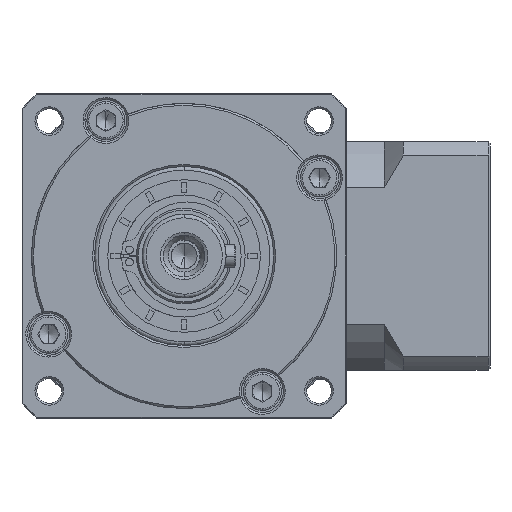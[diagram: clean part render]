
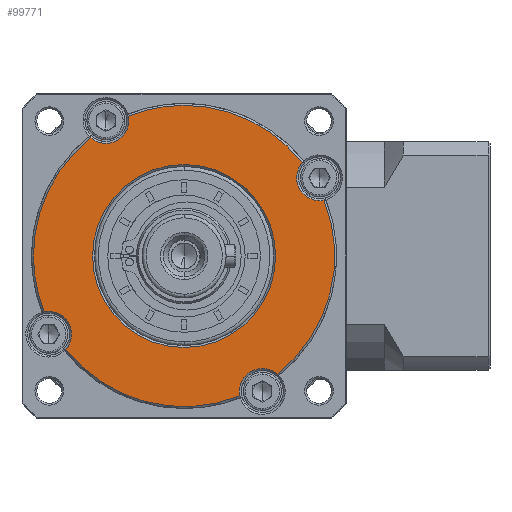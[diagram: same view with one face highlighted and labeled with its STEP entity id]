
A CAD part, left-side view. The second image highlights one B-rep face of the part: STEP entity #99771.
In plain terms, the highlighted planar face has unit normal (-1, 0, 0).
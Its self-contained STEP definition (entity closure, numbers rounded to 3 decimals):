
#490 = DIRECTION ( 'NONE',  ( 1., 0., 0. ) ) ;
#1465 = CIRCLE ( 'NONE', #11382, 6. ) ;
#7132 = AXIS2_PLACEMENT_3D ( 'NONE', #78009, #171537, #91453 ) ;
#7544 = CARTESIAN_POINT ( 'NONE',  ( -102.608, -21.383, -119.695 ) ) ;
#8297 = ORIENTED_EDGE ( 'NONE', *, *, #51775, .F. ) ;
#8430 = AXIS2_PLACEMENT_3D ( 'NONE', #61621, #155324, #75194 ) ;
#10633 = CIRCLE ( 'NONE', #7132, 6. ) ;
#11102 = DIRECTION ( 'NONE',  ( 0., 0., -1. ) ) ;
#11382 = AXIS2_PLACEMENT_3D ( 'NONE', #171370, #91289, #11102 ) ;
#12809 = CIRCLE ( 'NONE', #42660, 6. ) ;
#13398 = ORIENTED_EDGE ( 'NONE', *, *, #23313, .F. ) ;
#14891 = ORIENTED_EDGE ( 'NONE', *, *, #86610, .T. ) ;
#18509 = CARTESIAN_POINT ( 'NONE',  ( -102.608, -21.383, -119.695 ) ) ;
#21066 = DIRECTION ( 'NONE',  ( 0., 0., 1. ) ) ;
#22273 = CIRCLE ( 'NONE', #34663, 24. ) ;
#23313 = EDGE_CURVE ( 'NONE', #26762, #48591, #151674, .T. ) ;
#23394 = VERTEX_POINT ( 'NONE', #25131 ) ;
#23468 = CARTESIAN_POINT ( 'NONE',  ( -102.608, -21.383, -119.695 ) ) ;
#24138 = CARTESIAN_POINT ( 'NONE',  ( -102.608, -56.89, -99.195 ) ) ;
#25131 = CARTESIAN_POINT ( 'NONE',  ( -102.608, -52.391, -95.225 ) ) ;
#26762 = VERTEX_POINT ( 'NONE', #109636 ) ;
#28032 = CIRCLE ( 'NONE', #153180, 39.5 ) ;
#28199 = AXIS2_PLACEMENT_3D ( 'NONE', #41563, #135212, #54965 ) ;
#28925 = AXIS2_PLACEMENT_3D ( 'NONE', #46493, #140115, #59845 ) ;
#31975 = DIRECTION ( 'NONE',  ( 0., 1., 0. ) ) ;
#32446 = DIRECTION ( 'NONE',  ( 1., 0., 0. ) ) ;
#32576 = EDGE_CURVE ( 'NONE', #61951, #23394, #12809, .T. ) ;
#34663 = AXIS2_PLACEMENT_3D ( 'NONE', #53292, #146902, #66743 ) ;
#36927 = DIRECTION ( 'NONE',  ( 0., 0., -1. ) ) ;
#37607 = DIRECTION ( 'NONE',  ( 0., 0., -1. ) ) ;
#41563 = CARTESIAN_POINT ( 'NONE',  ( -102.608, -0.883, -84.188 ) ) ;
#42289 = CARTESIAN_POINT ( 'NONE',  ( -102.608, 2.617, -119.695 ) ) ;
#42659 = CIRCLE ( 'NONE', #28199, 6. ) ;
#42660 = AXIS2_PLACEMENT_3D ( 'NONE', #24138, #117761, #37607 ) ;
#42766 = VERTEX_POINT ( 'NONE', #82118 ) ;
#46493 = CARTESIAN_POINT ( 'NONE',  ( -102.608, -21.383, -119.695 ) ) ;
#47914 = VERTEX_POINT ( 'NONE', #104775 ) ;
#48591 = VERTEX_POINT ( 'NONE', #122626 ) ;
#48674 = ORIENTED_EDGE ( 'NONE', *, *, #152027, .F. ) ;
#51479 = CARTESIAN_POINT ( 'NONE',  ( -102.608, -21.383, -119.695 ) ) ;
#51775 = EDGE_CURVE ( 'NONE', #128526, #93482, #81156, .T. ) ;
#52877 = CIRCLE ( 'NONE', #126713, 24. ) ;
#53292 = CARTESIAN_POINT ( 'NONE',  ( -102.608, -21.383, -119.695 ) ) ;
#54965 = DIRECTION ( 'NONE',  ( 0., 0., -1. ) ) ;
#56197 = ORIENTED_EDGE ( 'NONE', *, *, #71266, .F. ) ;
#56704 = EDGE_CURVE ( 'NONE', #82918, #93482, #42659, .T. ) ;
#57070 = ORIENTED_EDGE ( 'NONE', *, *, #170438, .T. ) ;
#59845 = DIRECTION ( 'NONE',  ( 0., 0., 1. ) ) ;
#61234 = CIRCLE ( 'NONE', #134258, 6. ) ;
#61621 = CARTESIAN_POINT ( 'NONE',  ( -102.608, -21.383, -119.695 ) ) ;
#61951 = VERTEX_POINT ( 'NONE', #96308 ) ;
#61968 = CARTESIAN_POINT ( 'NONE',  ( -102.608, -6.764, -83. ) ) ;
#62972 = AXIS2_PLACEMENT_3D ( 'NONE', #154884, #74754, #168245 ) ;
#63260 = EDGE_CURVE ( 'NONE', #42766, #23394, #126035, .T. ) ;
#64318 = EDGE_CURVE ( 'NONE', #138096, #48591, #10633, .T. ) ;
#64567 = VERTEX_POINT ( 'NONE', #73721 ) ;
#64858 = DIRECTION ( 'NONE',  ( 0., 0., 1. ) ) ;
#66743 = DIRECTION ( 'NONE',  ( 0., -1., 0. ) ) ;
#67966 = CARTESIAN_POINT ( 'NONE',  ( -102.608, -21.383, -119.695 ) ) ;
#71266 = EDGE_CURVE ( 'NONE', #138096, #128526, #79555, .T. ) ;
#73721 = CARTESIAN_POINT ( 'NONE',  ( -102.608, -58.078, -105.076 ) ) ;
#74754 = DIRECTION ( 'NONE',  ( 1., 0., 0. ) ) ;
#75194 = DIRECTION ( 'NONE',  ( 0., 1., 0. ) ) ;
#77746 = ORIENTED_EDGE ( 'NONE', *, *, #144298, .T. ) ;
#78009 = CARTESIAN_POINT ( 'NONE',  ( -102.608, 14.124, -140.195 ) ) ;
#79555 = CIRCLE ( 'NONE', #8430, 39.5 ) ;
#80678 = CARTESIAN_POINT ( 'NONE',  ( -102.608, -41.883, -155.202 ) ) ;
#81156 = CIRCLE ( 'NONE', #157975, 39.5 ) ;
#81435 = DIRECTION ( 'NONE',  ( 0., -1., 0. ) ) ;
#82118 = CARTESIAN_POINT ( 'NONE',  ( -102.608, -21.383, -80.195 ) ) ;
#82918 = VERTEX_POINT ( 'NONE', #123926 ) ;
#86610 = EDGE_CURVE ( 'NONE', #171614, #136988, #52877, .T. ) ;
#89009 = ORIENTED_EDGE ( 'NONE', *, *, #152984, .F. ) ;
#91289 = DIRECTION ( 'NONE',  ( 1., 0., 0. ) ) ;
#91453 = DIRECTION ( 'NONE',  ( 0., 0., -1. ) ) ;
#92655 = ORIENTED_EDGE ( 'NONE', *, *, #139283, .T. ) ;
#93482 = VERTEX_POINT ( 'NONE', #100685 ) ;
#93829 = ORIENTED_EDGE ( 'NONE', *, *, #63260, .F. ) ;
#94087 = DIRECTION ( 'NONE',  ( 0., 0., -1. ) ) ;
#96308 = CARTESIAN_POINT ( 'NONE',  ( -102.608, -56.89, -105.195 ) ) ;
#97938 = EDGE_CURVE ( 'NONE', #64567, #61951, #140556, .T. ) ;
#99771 = ADVANCED_FACE ( 'NONE', ( #156002, #133033 ), #168456, .T. ) ;
#100685 = CARTESIAN_POINT ( 'NONE',  ( -102.608, 3.087, -88.687 ) ) ;
#101230 = DIRECTION ( 'NONE',  ( 1., 0., 0. ) ) ;
#104775 = CARTESIAN_POINT ( 'NONE',  ( -102.608, -45.853, -150.703 ) ) ;
#105315 = AXIS2_PLACEMENT_3D ( 'NONE', #23468, #117095, #36927 ) ;
#109636 = CARTESIAN_POINT ( 'NONE',  ( -102.608, -36.002, -156.39 ) ) ;
#111699 = AXIS2_PLACEMENT_3D ( 'NONE', #112575, #32446, #126094 ) ;
#112112 = DIRECTION ( 'NONE',  ( 1., 0., 0. ) ) ;
#112575 = CARTESIAN_POINT ( 'NONE',  ( -102.608, -56.89, -99.195 ) ) ;
#113832 = EDGE_LOOP ( 'NONE', ( #48674, #92655, #154537, #8297, #56197, #143688, #13398, #57070, #89009, #139839, #120934, #93829 ) ) ;
#116857 = CARTESIAN_POINT ( 'NONE',  ( -102.608, 18.117, -119.695 ) ) ;
#117095 = DIRECTION ( 'NONE',  ( -1., 0., 0. ) ) ;
#117761 = DIRECTION ( 'NONE',  ( 1., 0., 0. ) ) ;
#120578 = AXIS2_PLACEMENT_3D ( 'NONE', #51479, #145033, #64858 ) ;
#120934 = ORIENTED_EDGE ( 'NONE', *, *, #32576, .T. ) ;
#122399 = CARTESIAN_POINT ( 'NONE',  ( -102.608, -45.383, -119.695 ) ) ;
#122626 = CARTESIAN_POINT ( 'NONE',  ( -102.608, 9.625, -144.165 ) ) ;
#123926 = CARTESIAN_POINT ( 'NONE',  ( -102.608, -0.883, -90.188 ) ) ;
#126035 = CIRCLE ( 'NONE', #62972, 39.5 ) ;
#126094 = DIRECTION ( 'NONE',  ( 0., 0., -1. ) ) ;
#126713 = AXIS2_PLACEMENT_3D ( 'NONE', #67966, #161562, #81435 ) ;
#128526 = VERTEX_POINT ( 'NONE', #116857 ) ;
#133033 = FACE_BOUND ( 'NONE', #144317, .T. ) ;
#134258 = AXIS2_PLACEMENT_3D ( 'NONE', #80678, #490, #94087 ) ;
#135212 = DIRECTION ( 'NONE',  ( 1., 0., 0. ) ) ;
#136988 = VERTEX_POINT ( 'NONE', #42289 ) ;
#138096 = VERTEX_POINT ( 'NONE', #149648 ) ;
#138746 = CIRCLE ( 'NONE', #28925, 39.5 ) ;
#139283 = EDGE_CURVE ( 'NONE', #161152, #82918, #1465, .T. ) ;
#139839 = ORIENTED_EDGE ( 'NONE', *, *, #97938, .T. ) ;
#140115 = DIRECTION ( 'NONE',  ( 1., 0., 0. ) ) ;
#140556 = CIRCLE ( 'NONE', #111699, 6. ) ;
#143688 = ORIENTED_EDGE ( 'NONE', *, *, #64318, .T. ) ;
#144298 = EDGE_CURVE ( 'NONE', #136988, #171614, #22273, .T. ) ;
#144317 = EDGE_LOOP ( 'NONE', ( #14891, #77746 ) ) ;
#145033 = DIRECTION ( 'NONE',  ( 1., 0., 0. ) ) ;
#146902 = DIRECTION ( 'NONE',  ( 1., 0., 0. ) ) ;
#149648 = CARTESIAN_POINT ( 'NONE',  ( -102.608, 15.312, -134.314 ) ) ;
#151674 = CIRCLE ( 'NONE', #120578, 39.5 ) ;
#152027 = EDGE_CURVE ( 'NONE', #161152, #42766, #28032, .T. ) ;
#152984 = EDGE_CURVE ( 'NONE', #64567, #47914, #138746, .T. ) ;
#153180 = AXIS2_PLACEMENT_3D ( 'NONE', #7544, #101230, #21066 ) ;
#154537 = ORIENTED_EDGE ( 'NONE', *, *, #56704, .T. ) ;
#154884 = CARTESIAN_POINT ( 'NONE',  ( -102.608, -21.383, -119.695 ) ) ;
#155324 = DIRECTION ( 'NONE',  ( 1., 0., 0. ) ) ;
#156002 = FACE_OUTER_BOUND ( 'NONE', #113832, .T. ) ;
#157975 = AXIS2_PLACEMENT_3D ( 'NONE', #18509, #112112, #31975 ) ;
#161152 = VERTEX_POINT ( 'NONE', #61968 ) ;
#161562 = DIRECTION ( 'NONE',  ( 1., 0., 0. ) ) ;
#168245 = DIRECTION ( 'NONE',  ( 0., 0., 1. ) ) ;
#168456 = PLANE ( 'NONE',  #105315 ) ;
#170438 = EDGE_CURVE ( 'NONE', #26762, #47914, #61234, .T. ) ;
#171370 = CARTESIAN_POINT ( 'NONE',  ( -102.608, -0.883, -84.188 ) ) ;
#171537 = DIRECTION ( 'NONE',  ( 1., 0., 0. ) ) ;
#171614 = VERTEX_POINT ( 'NONE', #122399 ) ;
